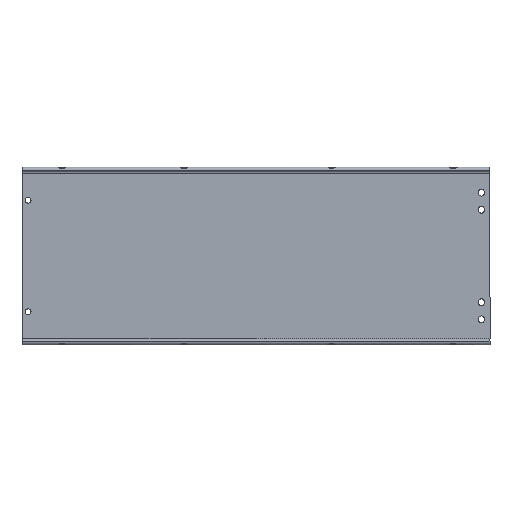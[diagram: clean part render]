
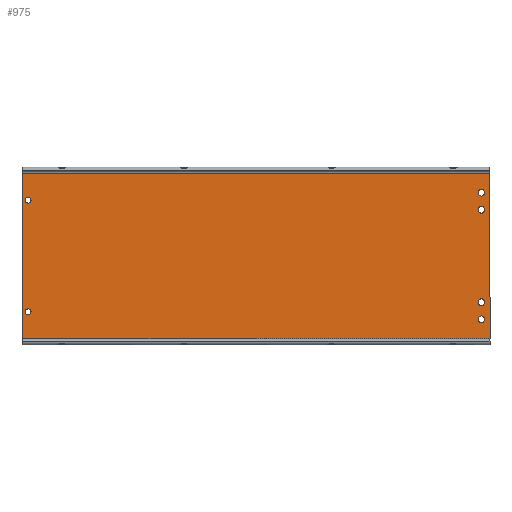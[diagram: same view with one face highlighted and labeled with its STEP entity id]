
A CAD part, front view. The second image highlights one B-rep face of the part: STEP entity #975.
In plain terms, the highlighted planar face has unit normal (0, -1, 0).
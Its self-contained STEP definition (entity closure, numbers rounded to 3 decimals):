
#111 = CARTESIAN_POINT ( 'NONE',  ( -40., 138., 0. ) ) ;
#130 = DIRECTION ( 'NONE',  ( 0., -1., 0. ) ) ;
#136 = EDGE_CURVE ( 'NONE', #3341, #2444, #2796, .T. ) ;
#150 = ORIENTED_EDGE ( 'NONE', *, *, #136, .F. ) ;
#185 = VERTEX_POINT ( 'NONE', #1128 ) ;
#208 = ORIENTED_EDGE ( 'NONE', *, *, #2573, .F. ) ;
#248 = CIRCLE ( 'NONE', #2661, 1.35 ) ;
#277 = CIRCLE ( 'NONE', #2356, 1.35 ) ;
#289 = AXIS2_PLACEMENT_3D ( 'NONE', #3768, #996, #965 ) ;
#294 = CARTESIAN_POINT ( 'NONE',  ( 152., 138., -69. ) ) ;
#331 = VECTOR ( 'NONE', #1222, 1000. ) ;
#417 = EDGE_CURVE ( 'NONE', #591, #3589, #3482, .T. ) ;
#420 = CARTESIAN_POINT ( 'NONE',  ( 148.5, 138., -16.05 ) ) ;
#440 = CARTESIAN_POINT ( 'NONE',  ( 152., 138., -69. ) ) ;
#464 = EDGE_LOOP ( 'NONE', ( #931, #4230 ) ) ;
#498 = ORIENTED_EDGE ( 'NONE', *, *, #952, .F. ) ;
#514 = CARTESIAN_POINT ( 'NONE',  ( 148.5, 138., -17.4 ) ) ;
#535 = CIRCLE ( 'NONE', #2532, 1.35 ) ;
#575 = EDGE_CURVE ( 'NONE', #2444, #3341, #4243, .T. ) ;
#591 = VERTEX_POINT ( 'NONE', #1517 ) ;
#632 = VERTEX_POINT ( 'NONE', #891 ) ;
#648 = ORIENTED_EDGE ( 'NONE', *, *, #976, .F. ) ;
#673 = AXIS2_PLACEMENT_3D ( 'NONE', #855, #1211, #3683 ) ;
#680 = CARTESIAN_POINT ( 'NONE',  ( 152., 138., -70. ) ) ;
#686 = CARTESIAN_POINT ( 'NONE',  ( -37.5, 138., -10.9 ) ) ;
#826 = DIRECTION ( 'NONE',  ( 0., -1., 0. ) ) ;
#855 = CARTESIAN_POINT ( 'NONE',  ( -37.5, 138., -12.1 ) ) ;
#891 = CARTESIAN_POINT ( 'NONE',  ( 148.5, 138., -10.4 ) ) ;
#917 = VERTEX_POINT ( 'NONE', #3954 ) ;
#931 = ORIENTED_EDGE ( 'NONE', *, *, #3463, .F. ) ;
#949 = VERTEX_POINT ( 'NONE', #3284 ) ;
#952 = EDGE_CURVE ( 'NONE', #949, #1740, #3852, .T. ) ;
#965 = DIRECTION ( 'NONE',  ( 0., 0., -1. ) ) ;
#971 = DIRECTION ( 'NONE',  ( 0., -1., 0. ) ) ;
#975 = ADVANCED_FACE ( 'NONE', ( #4009, #1197, #2903, #4482, #1800, #3530, #4133 ), #1900, .T. ) ;
#976 = EDGE_CURVE ( 'NONE', #3589, #591, #277, .T. ) ;
#996 = DIRECTION ( 'NONE',  ( 0., -1., 0. ) ) ;
#1015 = VERTEX_POINT ( 'NONE', #2615 ) ;
#1128 = CARTESIAN_POINT ( 'NONE',  ( 152., 138., -1. ) ) ;
#1130 = CARTESIAN_POINT ( 'NONE',  ( -40., 138., -1. ) ) ;
#1148 = EDGE_CURVE ( 'NONE', #3890, #917, #1312, .T. ) ;
#1155 = DIRECTION ( 'NONE',  ( 0., 0., -1. ) ) ;
#1161 = ORIENTED_EDGE ( 'NONE', *, *, #3634, .F. ) ;
#1197 = FACE_BOUND ( 'NONE', #1709, .T. ) ;
#1208 = VERTEX_POINT ( 'NONE', #514 ) ;
#1211 = DIRECTION ( 'NONE',  ( 0., -1., 0. ) ) ;
#1222 = DIRECTION ( 'NONE',  ( 0., 0., 1. ) ) ;
#1241 = EDGE_CURVE ( 'NONE', #1208, #2166, #2396, .T. ) ;
#1283 = DIRECTION ( 'NONE',  ( 0., 0., -1. ) ) ;
#1312 = LINE ( 'NONE', #111, #331 ) ;
#1394 = LINE ( 'NONE', #1130, #3049 ) ;
#1504 = VECTOR ( 'NONE', #2702, 1000. ) ;
#1510 = DIRECTION ( 'NONE',  ( 0., -1., 0. ) ) ;
#1517 = CARTESIAN_POINT ( 'NONE',  ( 148.5, 138., -62.3 ) ) ;
#1537 = CARTESIAN_POINT ( 'NONE',  ( 148.5, 138., -60.95 ) ) ;
#1584 = CARTESIAN_POINT ( 'NONE',  ( 148.5, 138., -9.05 ) ) ;
#1602 = CARTESIAN_POINT ( 'NONE',  ( 148.5, 138., -59.6 ) ) ;
#1709 = EDGE_LOOP ( 'NONE', ( #3820, #150 ) ) ;
#1740 = VERTEX_POINT ( 'NONE', #3132 ) ;
#1746 = CARTESIAN_POINT ( 'NONE',  ( 148.5, 138., -60.95 ) ) ;
#1800 = FACE_BOUND ( 'NONE', #2600, .T. ) ;
#1845 = ORIENTED_EDGE ( 'NONE', *, *, #1241, .F. ) ;
#1869 = CARTESIAN_POINT ( 'NONE',  ( 148.5, 138., -53.95 ) ) ;
#1887 = CARTESIAN_POINT ( 'NONE',  ( -37.5, 138., -12.1 ) ) ;
#1900 = PLANE ( 'NONE',  #4261 ) ;
#1965 = CARTESIAN_POINT ( 'NONE',  ( -37.5, 138., -13.3 ) ) ;
#2008 = CIRCLE ( 'NONE', #2932, 1.35 ) ;
#2062 = EDGE_CURVE ( 'NONE', #2975, #2150, #3563, .T. ) ;
#2092 = AXIS2_PLACEMENT_3D ( 'NONE', #1869, #4018, #3300 ) ;
#2102 = ORIENTED_EDGE ( 'NONE', *, *, #417, .F. ) ;
#2103 = DIRECTION ( 'NONE',  ( 1., 0., 0. ) ) ;
#2148 = DIRECTION ( 'NONE',  ( 0., -1., 0. ) ) ;
#2150 = VERTEX_POINT ( 'NONE', #2854 ) ;
#2166 = VERTEX_POINT ( 'NONE', #2869 ) ;
#2211 = DIRECTION ( 'NONE',  ( -1., 0., 0. ) ) ;
#2236 = DIRECTION ( 'NONE',  ( 0., -1., 0. ) ) ;
#2255 = EDGE_LOOP ( 'NONE', ( #498, #2274 ) ) ;
#2264 = DIRECTION ( 'NONE',  ( 0., -1., 0. ) ) ;
#2274 = ORIENTED_EDGE ( 'NONE', *, *, #2670, .F. ) ;
#2356 = AXIS2_PLACEMENT_3D ( 'NONE', #1537, #4034, #1155 ) ;
#2362 = ORIENTED_EDGE ( 'NONE', *, *, #1148, .F. ) ;
#2396 = CIRCLE ( 'NONE', #2413, 1.35 ) ;
#2413 = AXIS2_PLACEMENT_3D ( 'NONE', #420, #1510, #3218 ) ;
#2436 = VECTOR ( 'NONE', #2211, 1000. ) ;
#2444 = VERTEX_POINT ( 'NONE', #686 ) ;
#2468 = ORIENTED_EDGE ( 'NONE', *, *, #2062, .F. ) ;
#2483 = EDGE_CURVE ( 'NONE', #632, #1015, #535, .T. ) ;
#2498 = DIRECTION ( 'NONE',  ( 0., 0., -1. ) ) ;
#2532 = AXIS2_PLACEMENT_3D ( 'NONE', #1584, #2264, #4088 ) ;
#2568 = AXIS2_PLACEMENT_3D ( 'NONE', #3041, #4441, #1283 ) ;
#2573 = EDGE_CURVE ( 'NONE', #3018, #3890, #3007, .T. ) ;
#2596 = CARTESIAN_POINT ( 'NONE',  ( 0., 138., 0. ) ) ;
#2600 = EDGE_LOOP ( 'NONE', ( #2639, #1845 ) ) ;
#2615 = CARTESIAN_POINT ( 'NONE',  ( 148.5, 138., -7.7 ) ) ;
#2639 = ORIENTED_EDGE ( 'NONE', *, *, #2739, .F. ) ;
#2661 = AXIS2_PLACEMENT_3D ( 'NONE', #3265, #2148, #2498 ) ;
#2670 = EDGE_CURVE ( 'NONE', #1740, #949, #2008, .T. ) ;
#2702 = DIRECTION ( 'NONE',  ( 0., 0., -1. ) ) ;
#2739 = EDGE_CURVE ( 'NONE', #2166, #1208, #3731, .T. ) ;
#2796 = CIRCLE ( 'NONE', #3701, 1.2 ) ;
#2843 = ORIENTED_EDGE ( 'NONE', *, *, #4040, .F. ) ;
#2854 = CARTESIAN_POINT ( 'NONE',  ( -37.5, 138., -56.7 ) ) ;
#2869 = CARTESIAN_POINT ( 'NONE',  ( 148.5, 138., -14.7 ) ) ;
#2903 = FACE_BOUND ( 'NONE', #464, .T. ) ;
#2932 = AXIS2_PLACEMENT_3D ( 'NONE', #2950, #2236, #3694 ) ;
#2950 = CARTESIAN_POINT ( 'NONE',  ( 148.5, 138., -53.95 ) ) ;
#2959 = EDGE_CURVE ( 'NONE', #185, #3018, #3119, .T. ) ;
#2974 = DIRECTION ( 'NONE',  ( 0., 0., -1. ) ) ;
#2975 = VERTEX_POINT ( 'NONE', #4540 ) ;
#3007 = LINE ( 'NONE', #440, #2436 ) ;
#3018 = VERTEX_POINT ( 'NONE', #294 ) ;
#3034 = CARTESIAN_POINT ( 'NONE',  ( -40., 138., -69. ) ) ;
#3041 = CARTESIAN_POINT ( 'NONE',  ( -37.5, 138., -57.9 ) ) ;
#3049 = VECTOR ( 'NONE', #2103, 1000. ) ;
#3085 = CARTESIAN_POINT ( 'NONE',  ( 148.5, 138., -16.05 ) ) ;
#3119 = LINE ( 'NONE', #680, #1504 ) ;
#3126 = EDGE_LOOP ( 'NONE', ( #1161, #2468 ) ) ;
#3132 = CARTESIAN_POINT ( 'NONE',  ( 148.5, 138., -55.3 ) ) ;
#3152 = DIRECTION ( 'NONE',  ( 0., -1., 0. ) ) ;
#3218 = DIRECTION ( 'NONE',  ( 0., 0., -1. ) ) ;
#3235 = AXIS2_PLACEMENT_3D ( 'NONE', #3085, #971, #4544 ) ;
#3265 = CARTESIAN_POINT ( 'NONE',  ( 148.5, 138., -9.05 ) ) ;
#3284 = CARTESIAN_POINT ( 'NONE',  ( 148.5, 138., -52.6 ) ) ;
#3286 = DIRECTION ( 'NONE',  ( 0., 0., -1. ) ) ;
#3300 = DIRECTION ( 'NONE',  ( 0., 0., -1. ) ) ;
#3341 = VERTEX_POINT ( 'NONE', #1965 ) ;
#3463 = EDGE_CURVE ( 'NONE', #1015, #632, #248, .T. ) ;
#3467 = EDGE_LOOP ( 'NONE', ( #648, #2102 ) ) ;
#3482 = CIRCLE ( 'NONE', #3873, 1.35 ) ;
#3530 = FACE_BOUND ( 'NONE', #2255, .T. ) ;
#3563 = CIRCLE ( 'NONE', #289, 1.2 ) ;
#3589 = VERTEX_POINT ( 'NONE', #1602 ) ;
#3634 = EDGE_CURVE ( 'NONE', #2150, #2975, #4510, .T. ) ;
#3683 = DIRECTION ( 'NONE',  ( 0., 0., -1. ) ) ;
#3694 = DIRECTION ( 'NONE',  ( 0., 0., -1. ) ) ;
#3701 = AXIS2_PLACEMENT_3D ( 'NONE', #1887, #826, #3286 ) ;
#3731 = CIRCLE ( 'NONE', #3235, 1.35 ) ;
#3768 = CARTESIAN_POINT ( 'NONE',  ( -37.5, 138., -57.9 ) ) ;
#3820 = ORIENTED_EDGE ( 'NONE', *, *, #575, .F. ) ;
#3852 = CIRCLE ( 'NONE', #2092, 1.35 ) ;
#3853 = DIRECTION ( 'NONE',  ( 0., 0., -1. ) ) ;
#3873 = AXIS2_PLACEMENT_3D ( 'NONE', #1746, #3152, #3853 ) ;
#3890 = VERTEX_POINT ( 'NONE', #3034 ) ;
#3915 = EDGE_LOOP ( 'NONE', ( #2362, #208, #4535, #2843 ) ) ;
#3954 = CARTESIAN_POINT ( 'NONE',  ( -40., 138., -1. ) ) ;
#4009 = FACE_BOUND ( 'NONE', #3126, .T. ) ;
#4018 = DIRECTION ( 'NONE',  ( 0., -1., 0. ) ) ;
#4034 = DIRECTION ( 'NONE',  ( 0., -1., 0. ) ) ;
#4040 = EDGE_CURVE ( 'NONE', #917, #185, #1394, .T. ) ;
#4088 = DIRECTION ( 'NONE',  ( 0., 0., -1. ) ) ;
#4133 = FACE_OUTER_BOUND ( 'NONE', #3915, .T. ) ;
#4230 = ORIENTED_EDGE ( 'NONE', *, *, #2483, .F. ) ;
#4243 = CIRCLE ( 'NONE', #673, 1.2 ) ;
#4261 = AXIS2_PLACEMENT_3D ( 'NONE', #2596, #130, #2974 ) ;
#4441 = DIRECTION ( 'NONE',  ( 0., -1., 0. ) ) ;
#4482 = FACE_BOUND ( 'NONE', #3467, .T. ) ;
#4510 = CIRCLE ( 'NONE', #2568, 1.2 ) ;
#4535 = ORIENTED_EDGE ( 'NONE', *, *, #2959, .F. ) ;
#4540 = CARTESIAN_POINT ( 'NONE',  ( -37.5, 138., -59.1 ) ) ;
#4544 = DIRECTION ( 'NONE',  ( 0., 0., -1. ) ) ;
